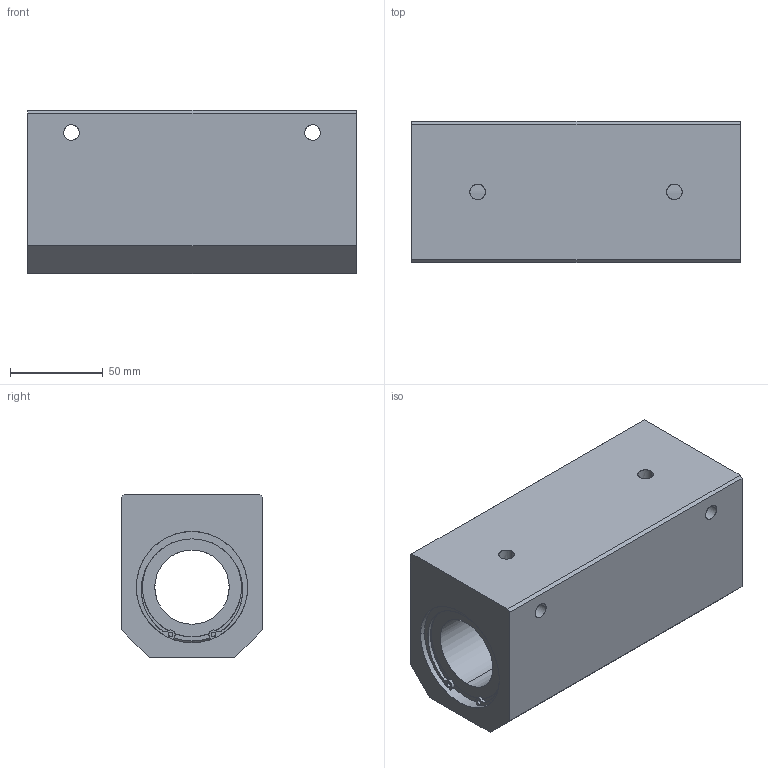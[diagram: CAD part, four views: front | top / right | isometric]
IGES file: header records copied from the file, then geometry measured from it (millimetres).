
Global section: file name: No Iges File Name specified; native system: AutoDesk Inventor R11.0; preprocessor: AutoDesk Inventor Iges Exporter R11.0; author: No Author specified; organization: No Organization specified; date: 20170921.152949; units: millimetre
Bounding box: 177 x 76 x 88 mm (x, y, z)
Surface area: 97945.9 mm2 (no closed solid volume)
Topology: 0 solids, 0 shells, 98 faces, 776 edges, 776 vertices
Faces by surface type: bspline 98
